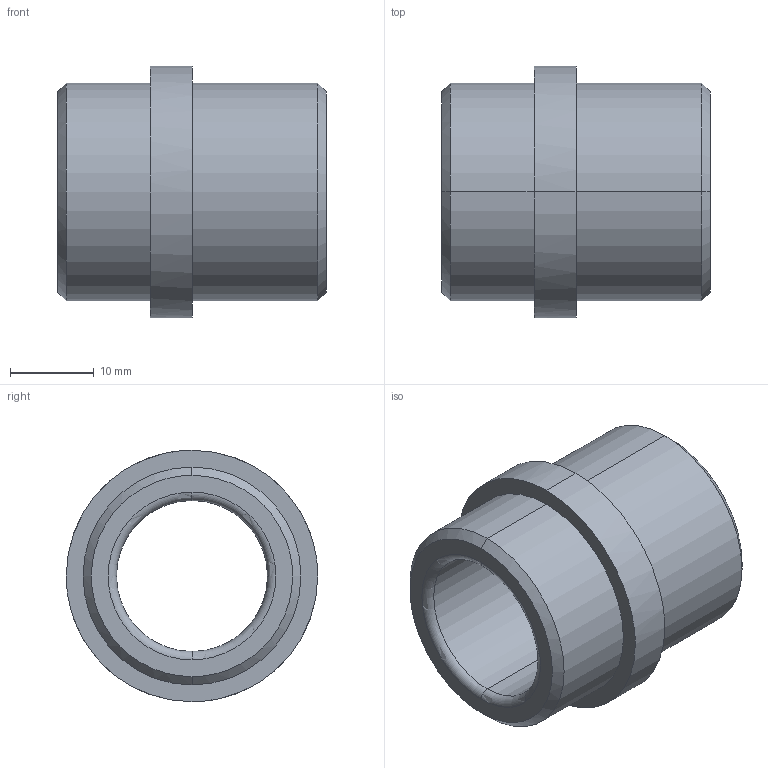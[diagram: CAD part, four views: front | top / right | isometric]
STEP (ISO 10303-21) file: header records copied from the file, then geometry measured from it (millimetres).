
FILE_DESCRIPTION(('CATIA V5 STEP Exchange'),'2;1');
FILE_NAME('C:\Users\Utente\Desktop\IO LAVORO\3D X SITO CF\X SITO\PLASTICA\354\354-18X32.stp','2021-04-21T08:47:41+00:00',('none'),('none'),'CATIA Version 5 Release 20 GA (IN-10)','CATIA V5 STEP AP203','none');
FILE_SCHEMA(('CONFIG_CONTROL_DESIGN'));
Length unit declared in the file: millimetre
Products named in the file (1): 354-18X32
Bounding box: 32 x 30 x 30 mm (x, y, z)
Volume: 9621.9 mm3; surface area: 5245 mm2
Topology: 1 solids, 1 shells, 20 faces, 64 edges, 48 vertices
Faces by surface type: cylinder 8, plane 4, cone 4, torus 4
Entity records: 906 total; most frequent: CARTESIAN_POINT 301, ORIENTED_EDGE 128, DIRECTION 92, EDGE_CURVE 64, AXIS2_PLACEMENT_3D 61, VERTEX_POINT 48, CIRCLE 40, EDGE_LOOP 24
